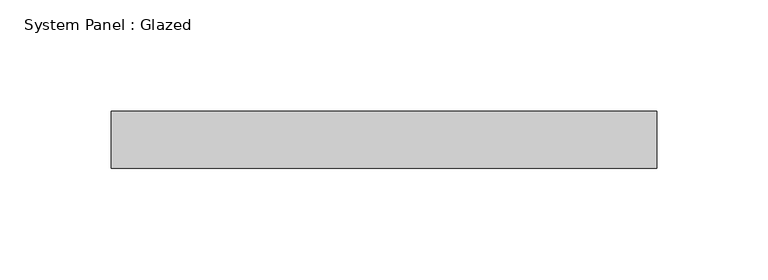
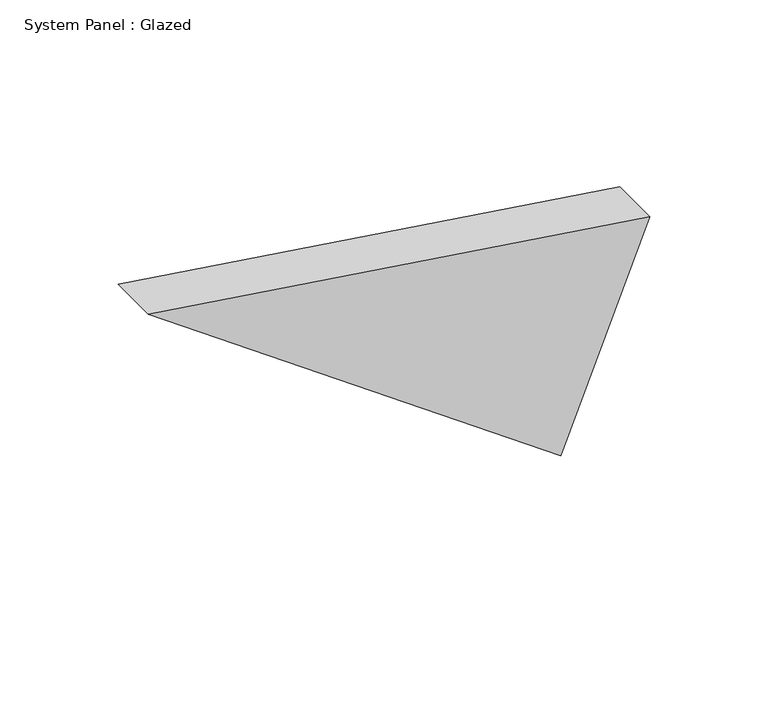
"""IFC4 building model written with IfcOpenShell, lengths in millimetres: plate geometry, System Panel : Glazed."""

from ifc_helpers import new_model, si_unit, frame, origin, place, context, project, spatial, polyline, outline, extrude, source, transform, mapped, element, save


def system_panel_glazed_ecd21c16(model_context):
    return source(origin(), model_context, "Body", "SweptSolid", [
        extrude(outline(polyline([(0.0, 78.9632602), (108.0593811, 122.2876136), (143.402438, -122.2876136), (0.0, 78.9632602)])), frame((0.0, 19.05, 0.0), z_axis=(0.0, 1.0, 0.0), x_axis=(0.0, 0.0, 1.0)), (0.0, 0.0, 1.0), 25.4),
    ])


if __name__ == "__main__":
    model = new_model("IFC4")
    model_context = context("Model", 3, world=origin())
    ifc_project = project(units=[si_unit("LENGTHUNIT", "METRE", prefix="MILLI")], contexts=[model_context])
    site = spatial("IfcSite", under=ifc_project)
    building = spatial("IfcBuilding", under=site)
    placement = place(None, origin())
    system_panel_glazed_shape = system_panel_glazed_ecd21c16(model_context)
    element("IfcPlate", 1, ObjectType="System Panel : Glazed", at=placement, inside=building, context=model_context, shape_type="MappedRepresentation", body=[
        mapped(system_panel_glazed_shape, transform((0.0, 0.0, 0.0), x_axis=(1.0, 0.0, 0.0), y_axis=(0.0, 1.0, 0.0), z_axis=(0.0, 0.0, 1.0))),
    ])
    save(model, "model.ifc")
